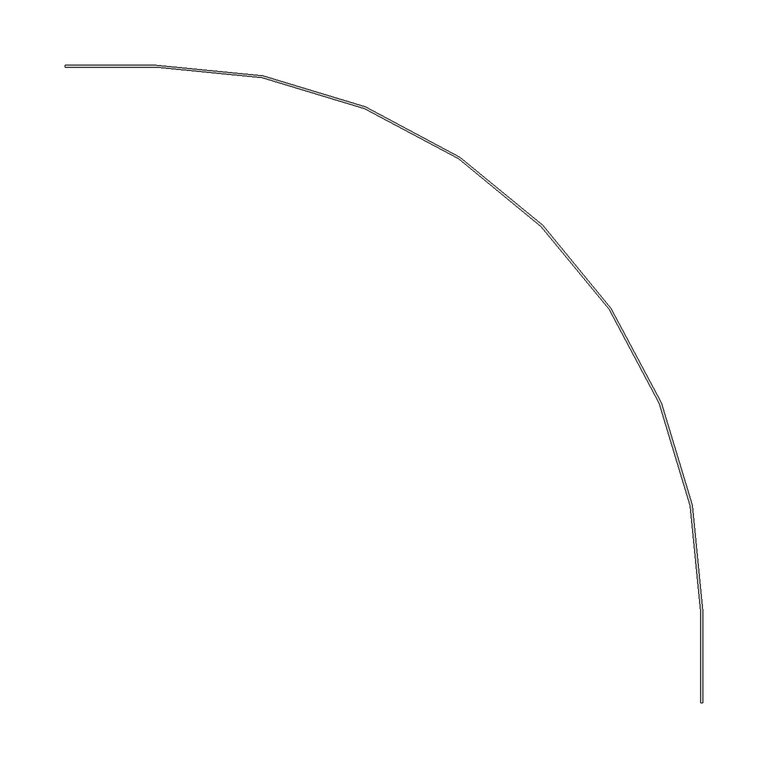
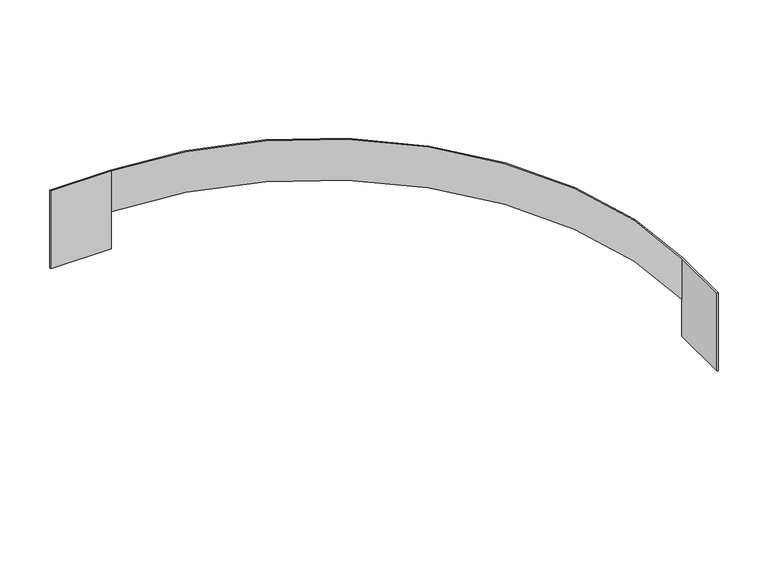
"""IFC4 building model written with IfcOpenShell, lengths in millimetres: cable carrier fitting geometry, BAKS_LD_CONN_Addon connector_LDDK : LDDKP."""

from ifc_helpers import new_model, si_unit, frame, origin, place, context, project, spatial, polyline, circle_curve, source, transform, mapped, element, save
from ifc_brep_helpers import plane_surface, cylinder_surface, revolved_surface, advanced_brep


def cable_carrier_fitting_0f11f104(model_context):
    return source(origin(), model_context, "Body", "AdvancedBrep", [
        advanced_brep(
        [(-490.0, -1.5, 72.5), (-490.0, 0.0, 72.5), (-490.0, 0.0, -22.5), (-490.0, -1.5, -22.5), (-420.0, -1.5, 72.5), (-1.5, -420.0, 72.5), (-1.5, -490.0, 72.5), (0.0, -490.0, 72.5), (0.0, -420.0, 72.5), (-420.0, 0.0, 72.5), (-420.0, 0.0, 22.5), (-420.0, 0.0, -22.5), (0.0, -420.0, 22.5), (-1.5, -420.0, 22.5), (-420.0, -1.5, 22.5), (-420.0, -1.5, -22.5), (-1.5, -490.0, -22.5), (0.0, -490.0, -22.5), (0.0, -420.0, -22.5), (-1.5, -420.0, -22.5)],
        [
            (0, 1),
            (1, 2),
            (2, 3),
            (3, 0),
            (0, 4),
            (4, 5, circle_curve(frame((-420.0, -420.0, 72.5), z_axis=(0.0, 0.0, -1.0), x_axis=(0.0, 1.0, 0.0)), 418.5)),
            (5, 6),
            (6, 7),
            (7, 8),
            (8, 9, circle_curve(frame((-420.0, -420.0, 72.5), z_axis=(0.0, 0.0, 1.0), x_axis=(0.0, 1.0, 0.0)), 420.0)),
            (9, 1),
            (9, 10),
            (10, 11),
            (11, 2),
            (10, 12, circle_curve(frame((-420.0, -420.0, 22.5), z_axis=(0.0, 0.0, -1.0), x_axis=(0.0, 1.0, 0.0)), 420.0)),
            (12, 13),
            (13, 14, circle_curve(frame((-420.0, -420.0, 22.5), z_axis=(0.0, 0.0, 1.0), x_axis=(0.0, 1.0, 0.0)), 418.5)),
            (14, 10),
            (3, 15),
            (15, 14),
            (14, 4),
            (8, 12),
            (13, 5),
            (6, 16),
            (16, 17),
            (17, 7),
            (17, 18),
            (18, 12),
            (13, 19),
            (19, 16),
            (11, 15),
            (19, 18),
        ],
        [
            plane_surface(frame((-490.0, 0.0, 22.5), z_axis=(-1.0, 0.0, 0.0), x_axis=(0.0, 0.0, 1.0))),
            plane_surface(frame((-490.0, -1.5, 72.5), z_axis=(0.0, 0.0, 1.0), x_axis=(1.0, 0.0, 0.0))),
            plane_surface(frame((-490.0, 0.0, 72.5), z_axis=(0.0, 1.0, 0.0), x_axis=(1.0, 0.0, 0.0))),
            plane_surface(frame((-490.0, 0.0, 22.5), z_axis=(0.0, 0.0, -1.0), x_axis=(1.0, 0.0, 0.0))),
            plane_surface(frame((-490.0, -1.5, 22.5), z_axis=(0.0, -1.0, 0.0), x_axis=(1.0, 0.0, 0.0))),
            cylinder_surface(frame((-420.0, -420.0, 22.5), z_axis=(0.0, 0.0, -1.0), x_axis=(0.0, 1.0, 0.0)), 420.0),
            revolved_surface(polyline([(-420.0, -1.5, 22.5), (-420.0, -1.5, 72.5)]), (-420.0, -420.0, 22.5), (0.0, 0.0, -1.0)),
            plane_surface(frame((0.0, -490.0, 22.5), z_axis=(0.0, -1.0, 0.0), x_axis=(0.0, 0.0, 1.0))),
            plane_surface(frame((0.0, -420.0, 72.5), z_axis=(1.0, 0.0, 0.0), x_axis=(0.0, -1.0, 0.0))),
            plane_surface(frame((-1.5, -420.0, 22.5), z_axis=(-1.0, 0.0, 0.0), x_axis=(0.0, -1.0, 0.0))),
            plane_surface(frame((-490.0, 0.0, -22.5), z_axis=(0.0, 0.0, -1.0), x_axis=(1.0, 0.0, 0.0))),
            plane_surface(frame((-420.0, -1.5, 22.5), z_axis=(1.0, 0.0, 0.0), x_axis=(0.0, 0.0, -1.0))),
            plane_surface(frame((-1.5, -420.0, -22.5), z_axis=(0.0, 0.0, -1.0), x_axis=(1.0, 0.0, 0.0))),
            plane_surface(frame((0.0, -420.0, 22.5), z_axis=(0.0, 1.0, 0.0), x_axis=(0.0, 0.0, -1.0))),
        ],
        [
            (0, [[1, 2, 3, 4]]),
            (1, [[-1, 5, 6, 7, 8, 9, 10, 11]]),
            (2, [[-11, 12, 13, 14, -2]]),
            (3, [[15, 16, 17, 18]]),
            (4, [[-5, -4, 19, 20, 21]]),
            (5, [[-10, 22, -15, -12]]),
            (6, [[-6, -21, -17, 23]]),
            (7, [[-8, 24, 25, 26]]),
            (8, [[-9, -26, 27, 28, -22]]),
            (9, [[-24, -7, -23, 29, 30]]),
            (10, [[31, -19, -3, -14]]),
            (11, [[-31, -13, -18, -20]]),
            (12, [[-27, -25, -30, 32]]),
            (13, [[-32, -29, -16, -28]]),
        ],
    ),
    ])


if __name__ == "__main__":
    model = new_model("IFC4")
    model_context = context("Model", 3, world=origin())
    ifc_project = project(units=[si_unit("LENGTHUNIT", "METRE", prefix="MILLI")], contexts=[model_context])
    site = spatial("IfcSite", under=ifc_project)
    building = spatial("IfcBuilding", under=site)
    placement = place(None, origin())
    cable_carrier_fitting_shape = cable_carrier_fitting_0f11f104(model_context)
    element("IfcCableCarrierFitting", 1, ObjectType="BAKS_LD_CONN_Addon connector_LDDK : LDDKP", at=placement, inside=building, context=model_context, shape_type="MappedRepresentation", body=[
        mapped(cable_carrier_fitting_shape, transform((0.0, 0.0, 0.0), x_axis=(1.0, 0.0, 0.0), y_axis=(0.0, 1.0, 0.0), z_axis=(0.0, 0.0, 1.0))),
    ])
    save(model, "model.ifc")
